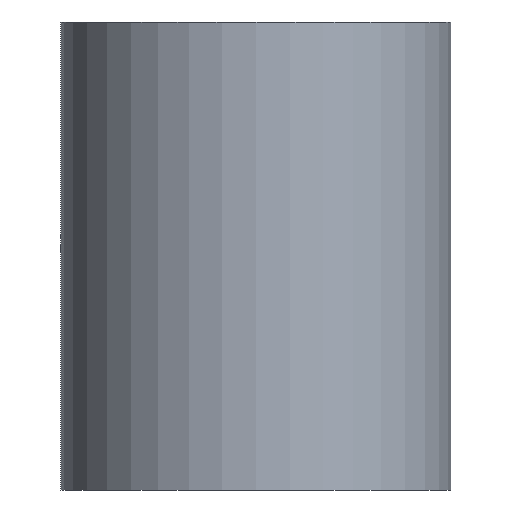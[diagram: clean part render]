
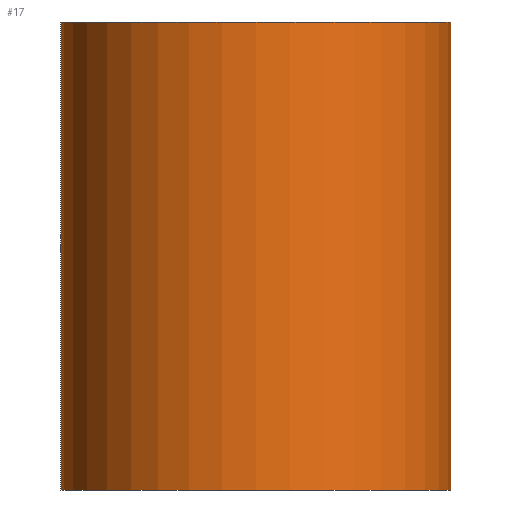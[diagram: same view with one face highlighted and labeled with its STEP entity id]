
A CAD part, front view. The second image highlights one B-rep face of the part: STEP entity #17.
In plain terms, the highlighted cylindrical face has radius 5 mm (diameter 10 mm), a full revolution.
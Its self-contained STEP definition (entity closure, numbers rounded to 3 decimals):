
#17 = ADVANCED_FACE('',(#18),#31,.T.);
#18 = FACE_BOUND('',#19,.T.);
#19 = EDGE_LOOP('',(#20,#54,#77,#104));
#20 = ORIENTED_EDGE('',*,*,#21,.F.);
#21 = EDGE_CURVE('',#22,#22,#24,.T.);
#22 = VERTEX_POINT('',#23);
#23 = CARTESIAN_POINT('',(5.,0.,12.));
#24 = SURFACE_CURVE('',#25,(#30,#42),.PCURVE_S1.);
#25 = CIRCLE('',#26,5.);
#26 = AXIS2_PLACEMENT_3D('',#27,#28,#29);
#27 = CARTESIAN_POINT('',(0.,0.,12.));
#28 = DIRECTION('',(0.,0.,1.));
#29 = DIRECTION('',(1.,0.,-0.));
#30 = PCURVE('',#31,#36);
#31 = CYLINDRICAL_SURFACE('',#32,5.);
#32 = AXIS2_PLACEMENT_3D('',#33,#34,#35);
#33 = CARTESIAN_POINT('',(0.,0.,0.));
#34 = DIRECTION('',(0.,0.,1.));
#35 = DIRECTION('',(1.,0.,-0.));
#36 = DEFINITIONAL_REPRESENTATION('',(#37),#41);
#37 = LINE('',#38,#39);
#38 = CARTESIAN_POINT('',(0.,12.));
#39 = VECTOR('',#40,1.);
#40 = DIRECTION('',(1.,0.));
#41 = ( GEOMETRIC_REPRESENTATION_CONTEXT(2) 
PARAMETRIC_REPRESENTATION_CONTEXT() REPRESENTATION_CONTEXT('2D SPACE',''
  ) );
#42 = PCURVE('',#43,#48);
#43 = PLANE('',#44);
#44 = AXIS2_PLACEMENT_3D('',#45,#46,#47);
#45 = CARTESIAN_POINT('',(0.,0.,12.));
#46 = DIRECTION('',(0.,0.,1.));
#47 = DIRECTION('',(1.,0.,-0.));
#48 = DEFINITIONAL_REPRESENTATION('',(#49),#53);
#49 = CIRCLE('',#50,5.);
#50 = AXIS2_PLACEMENT_2D('',#51,#52);
#51 = CARTESIAN_POINT('',(0.,0.));
#52 = DIRECTION('',(1.,0.));
#53 = ( GEOMETRIC_REPRESENTATION_CONTEXT(2) 
PARAMETRIC_REPRESENTATION_CONTEXT() REPRESENTATION_CONTEXT('2D SPACE',''
  ) );
#54 = ORIENTED_EDGE('',*,*,#55,.F.);
#55 = EDGE_CURVE('',#56,#22,#58,.T.);
#56 = VERTEX_POINT('',#57);
#57 = CARTESIAN_POINT('',(5.,0.,0.));
#58 = SEAM_CURVE('',#59,(#63,#70),.PCURVE_S1.);
#59 = LINE('',#60,#61);
#60 = CARTESIAN_POINT('',(5.,0.,0.));
#61 = VECTOR('',#62,1.);
#62 = DIRECTION('',(0.,0.,1.));
#63 = PCURVE('',#31,#64);
#64 = DEFINITIONAL_REPRESENTATION('',(#65),#69);
#65 = LINE('',#66,#67);
#66 = CARTESIAN_POINT('',(6.283,-0.));
#67 = VECTOR('',#68,1.);
#68 = DIRECTION('',(0.,1.));
#69 = ( GEOMETRIC_REPRESENTATION_CONTEXT(2) 
PARAMETRIC_REPRESENTATION_CONTEXT() REPRESENTATION_CONTEXT('2D SPACE',''
  ) );
#70 = PCURVE('',#31,#71);
#71 = DEFINITIONAL_REPRESENTATION('',(#72),#76);
#72 = LINE('',#73,#74);
#73 = CARTESIAN_POINT('',(0.,-0.));
#74 = VECTOR('',#75,1.);
#75 = DIRECTION('',(0.,1.));
#76 = ( GEOMETRIC_REPRESENTATION_CONTEXT(2) 
PARAMETRIC_REPRESENTATION_CONTEXT() REPRESENTATION_CONTEXT('2D SPACE',''
  ) );
#77 = ORIENTED_EDGE('',*,*,#78,.T.);
#78 = EDGE_CURVE('',#56,#56,#79,.T.);
#79 = SURFACE_CURVE('',#80,(#85,#92),.PCURVE_S1.);
#80 = CIRCLE('',#81,5.);
#81 = AXIS2_PLACEMENT_3D('',#82,#83,#84);
#82 = CARTESIAN_POINT('',(0.,0.,0.));
#83 = DIRECTION('',(0.,0.,1.));
#84 = DIRECTION('',(1.,0.,-0.));
#85 = PCURVE('',#31,#86);
#86 = DEFINITIONAL_REPRESENTATION('',(#87),#91);
#87 = LINE('',#88,#89);
#88 = CARTESIAN_POINT('',(0.,0.));
#89 = VECTOR('',#90,1.);
#90 = DIRECTION('',(1.,0.));
#91 = ( GEOMETRIC_REPRESENTATION_CONTEXT(2) 
PARAMETRIC_REPRESENTATION_CONTEXT() REPRESENTATION_CONTEXT('2D SPACE',''
  ) );
#92 = PCURVE('',#93,#98);
#93 = PLANE('',#94);
#94 = AXIS2_PLACEMENT_3D('',#95,#96,#97);
#95 = CARTESIAN_POINT('',(0.,0.,0.));
#96 = DIRECTION('',(0.,0.,1.));
#97 = DIRECTION('',(1.,0.,-0.));
#98 = DEFINITIONAL_REPRESENTATION('',(#99),#103);
#99 = CIRCLE('',#100,5.);
#100 = AXIS2_PLACEMENT_2D('',#101,#102);
#101 = CARTESIAN_POINT('',(0.,0.));
#102 = DIRECTION('',(1.,0.));
#103 = ( GEOMETRIC_REPRESENTATION_CONTEXT(2) 
PARAMETRIC_REPRESENTATION_CONTEXT() REPRESENTATION_CONTEXT('2D SPACE',''
  ) );
#104 = ORIENTED_EDGE('',*,*,#55,.T.);
